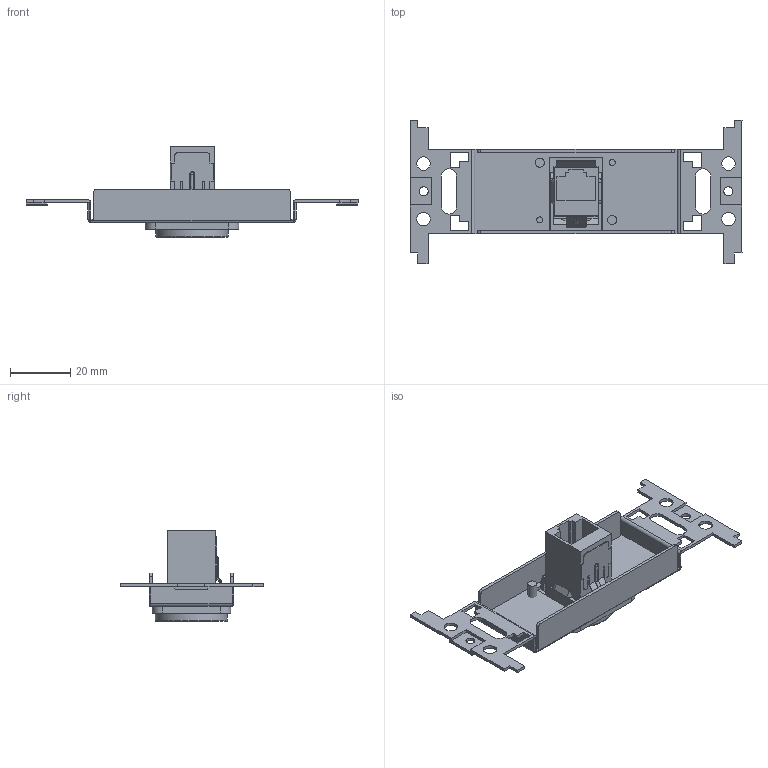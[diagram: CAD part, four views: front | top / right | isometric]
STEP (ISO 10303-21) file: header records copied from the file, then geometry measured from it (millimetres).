
FILE_DESCRIPTION(('FreeCAD Model'),'2;1');
FILE_NAME('Open CASCADE Shape Model','2026-09-10T14:02:22',(''),(''), 'Open CASCADE STEP processor 7.8','FreeCAD','Unknown');
FILE_SCHEMA(('AUTOMOTIVE_DESIGN { 1 0 10303 214 1 1 1 1 }'));
Length unit declared in the file: millimetre
Products named in the file (7): CMW_PNC6AS_BK; M3x8-Screw; M3x8-Screw001; PMNST-C6AS-BK; 3013BUSXLRBK; 3013AJSLQF6WH; P-200801
Assembly tree (6 placements, depth 3):
  CMW_PNC6AS_BK
    M3x8-Screw
    M3x8-Screw001
    PMNST-C6AS-BK
      3013BUSXLRBK
      3013AJSLQF6WH
    P-200801
Bounding box: 110 x 47.6 x 30.1 mm (x, y, z)
Volume: 11146.5 mm3; surface area: 15553.6 mm2
Topology: 5 solids, 5 shells, 356 faces, 999 edges, 652 vertices
Faces by surface type: bspline 176, plane 126, cylinder 36, cone 12, torus 6
Full cylindrical faces by diameter (mm): 2 x4, 3 x4, 4.5 x4, 5.3 x2
Entity records: 15371 total; most frequent: CARTESIAN_POINT 7383, ORIENTED_EDGE 1990, DIRECTION 1022, EDGE_CURVE 993, VERTEX_POINT 652, B_SPLINE_CURVE_WITH_KNOTS 489, FACE_BOUND 403, EDGE_LOOP 403
